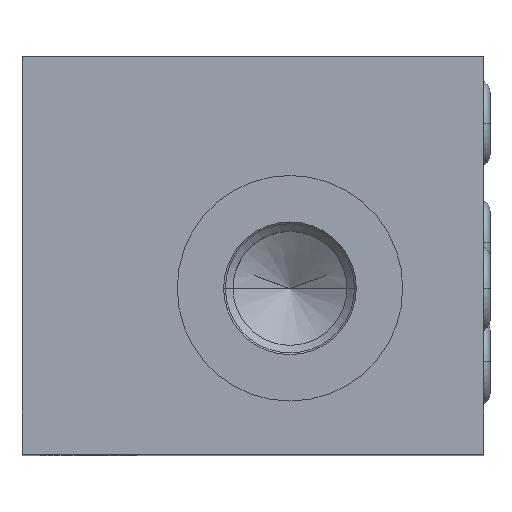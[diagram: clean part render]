
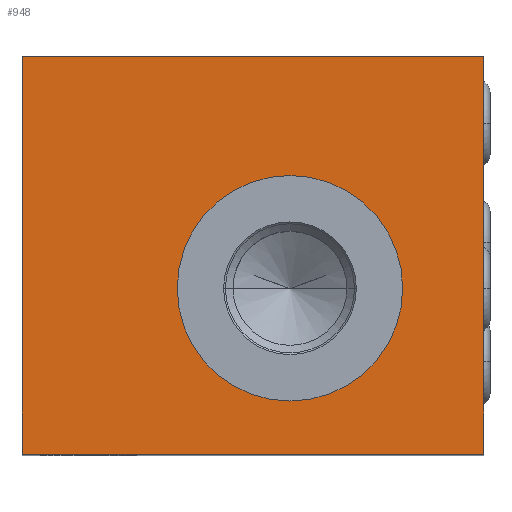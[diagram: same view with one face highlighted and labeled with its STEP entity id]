
A CAD part, top view. The second image highlights one B-rep face of the part: STEP entity #948.
In plain terms, the highlighted planar face has unit normal (0, 0, 1).
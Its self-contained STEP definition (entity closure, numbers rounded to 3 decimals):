
#60=DIRECTION('',(-1.,0.,0.));
#61=VECTOR('',#60,34.8);
#62=CARTESIAN_POINT('',(17.4,15.,38.));
#63=LINE('',#62,#61);
#72=DIRECTION('',(1.,0.,0.));
#73=VECTOR('',#72,34.8);
#74=CARTESIAN_POINT('',(-17.4,-15.,38.));
#75=LINE('',#74,#73);
#104=CARTESIAN_POINT('',(2.8,-2.5,38.));
#105=DIRECTION('',(0.,0.,1.));
#106=DIRECTION('',(-1.,0.,0.));
#107=AXIS2_PLACEMENT_3D('',#104,#105,#106);
#109=CARTESIAN_POINT('',(2.8,-2.5,38.));
#110=DIRECTION('',(0.,0.,1.));
#111=DIRECTION('',(1.,0.,0.));
#112=AXIS2_PLACEMENT_3D('',#109,#110,#111);
#114=DIRECTION('',(0.,1.,0.));
#115=VECTOR('',#114,30.);
#116=CARTESIAN_POINT('',(17.4,-15.,38.));
#117=LINE('',#116,#115);
#237=DIRECTION('',(0.,-1.,0.));
#238=VECTOR('',#237,30.);
#239=CARTESIAN_POINT('',(-17.4,15.,38.));
#240=LINE('',#239,#238);
#638=CARTESIAN_POINT('',(-17.4,-15.,38.));
#640=VERTEX_POINT('',#638);
#642=CARTESIAN_POINT('',(17.4,-15.,38.));
#644=VERTEX_POINT('',#642);
#646=CARTESIAN_POINT('',(17.4,15.,38.));
#648=VERTEX_POINT('',#646);
#659=CARTESIAN_POINT('',(-17.4,15.,38.));
#660=VERTEX_POINT('',#659);
#771=CARTESIAN_POINT('',(-5.7,-2.5,38.));
#772=CARTESIAN_POINT('',(11.3,-2.5,38.));
#773=VERTEX_POINT('',#771);
#774=VERTEX_POINT('',#772);
#929=CARTESIAN_POINT('',(0.,0.,38.));
#930=DIRECTION('',(0.,0.,1.));
#931=DIRECTION('',(1.,0.,0.));
#932=AXIS2_PLACEMENT_3D('',#929,#930,#931);
#933=PLANE('',#932);
#934=ORIENTED_EDGE('',*,*,#845,.F.);
#936=ORIENTED_EDGE('',*,*,#935,.F.);
#937=ORIENTED_EDGE('',*,*,#909,.F.);
#939=ORIENTED_EDGE('',*,*,#938,.F.);
#940=EDGE_LOOP('',(#934,#936,#937,#939));
#941=FACE_OUTER_BOUND('',#940,.F.);
#943=ORIENTED_EDGE('',*,*,#942,.T.);
#945=ORIENTED_EDGE('',*,*,#944,.T.);
#946=EDGE_LOOP('',(#943,#945));
#947=FACE_BOUND('',#946,.F.);
#948=ADVANCED_FACE('',(#941,#947),#933,.T.);
#108=CIRCLE('',#107,8.5);
#113=CIRCLE('',#112,8.5);
#845=EDGE_CURVE('',#648,#660,#63,.T.);
#909=EDGE_CURVE('',#640,#644,#75,.T.);
#935=EDGE_CURVE('',#644,#648,#117,.T.);
#938=EDGE_CURVE('',#660,#640,#240,.T.);
#942=EDGE_CURVE('',#773,#774,#108,.T.);
#944=EDGE_CURVE('',#774,#773,#113,.T.);
